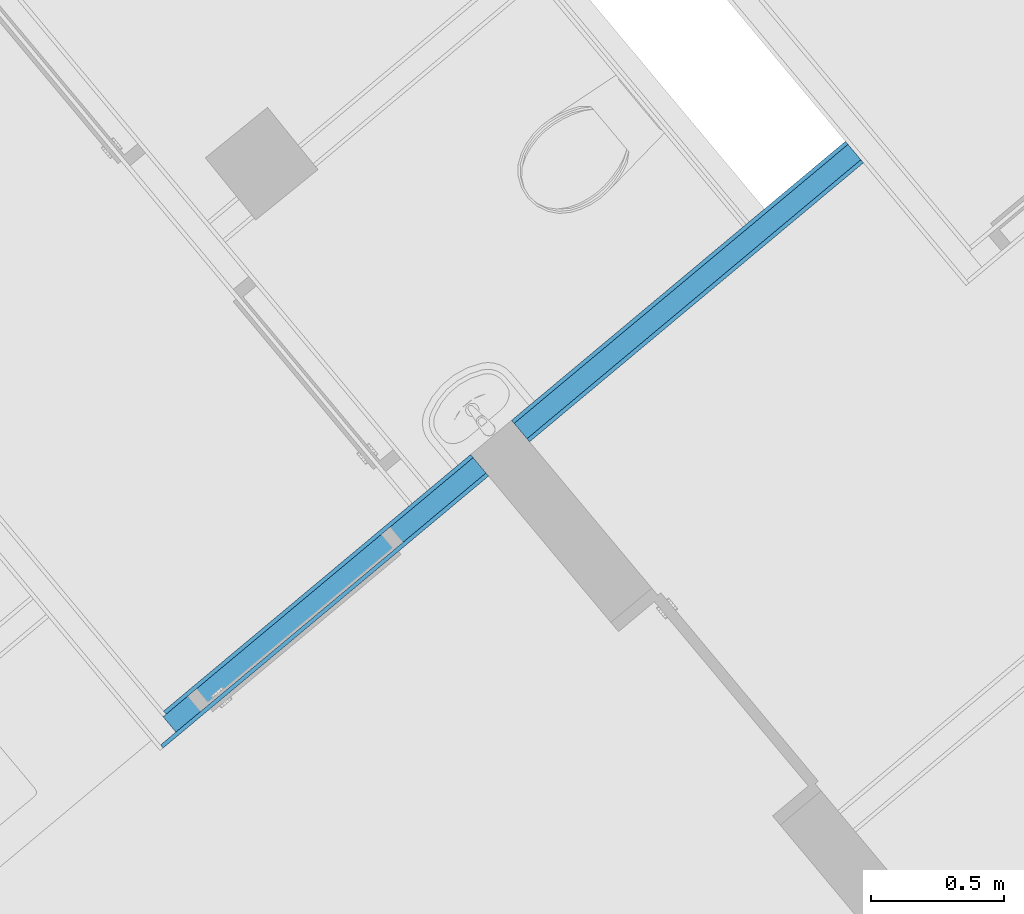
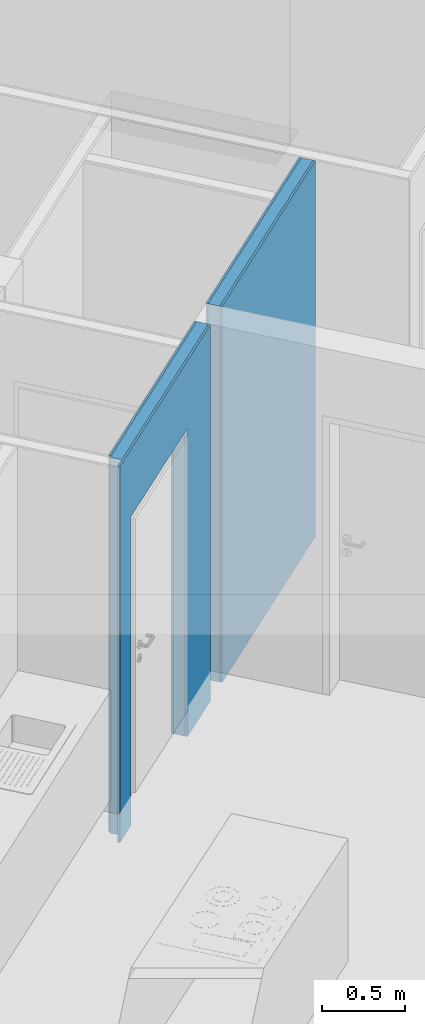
# One storey, part 12 of 75: 3 building element parts, 1 opening, 1 element without a shape of its own.
"""IFC4 building model written with IfcOpenShell, lengths in metres."""

from ifc_helpers import new_model, entity, si_unit, converted_unit, derived_unit, direction, frame, origin_with_axes, place, context, subcontext, project, spatial, polygons, material, type_object, element, aggregate, save


model = new_model("IFC4")

# Units and contexts
model_context = context("Model", 3, precision=1e-05, world=origin_with_axes(), true_north=direction((0.0, 1.0)))
body_context = subcontext(model_context, "Body", "Model", "MODEL_VIEW")
ifc_project = project(units=[si_unit("LENGTHUNIT", "METRE"), si_unit("AREAUNIT", "SQUARE_METRE"), si_unit("VOLUMEUNIT", "CUBIC_METRE"), converted_unit("PLANEANGLEUNIT", "DEGREE", entity("IfcPlaneAngleMeasure", 0.0174532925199), si_unit("PLANEANGLEUNIT", "RADIAN"), dimensions=[0, 0, 0, 0, 0, 0, 0]), converted_unit("TIMEUNIT", "Year", entity("IfcTimeMeasure", 31556926.0), si_unit("TIMEUNIT", "SECOND"), dimensions=[0, 0, 1, 0, 0, 0, 0]), si_unit("MASSUNIT", "GRAM", prefix="KILO"), si_unit("THERMODYNAMICTEMPERATUREUNIT", "DEGREE_CELSIUS"), si_unit("LUMINOUSINTENSITYUNIT", "LUMEN"), si_unit("ENERGYUNIT", "JOULE", prefix="MEGA"), derived_unit("THERMALCONDUCTANCEUNIT", [(si_unit("POWERUNIT", "WATT"), 1), (si_unit("LENGTHUNIT", "METRE"), -1), (si_unit("THERMODYNAMICTEMPERATUREUNIT", "KELVIN"), -1)]), derived_unit("SPECIFICHEATCAPACITYUNIT", [(si_unit("ENERGYUNIT", "JOULE"), 1), (si_unit("MASSUNIT", "GRAM", prefix="KILO"), -1), (si_unit("THERMODYNAMICTEMPERATUREUNIT", "KELVIN"), -1)]), derived_unit("MASSDENSITYUNIT", [(si_unit("MASSUNIT", "GRAM", prefix="KILO"), 1), (si_unit("VOLUMEUNIT", "CUBIC_METRE"), -1)])], contexts=[model_context])

# Site, building, storey
site_placement = place(None, frame((-0.00153261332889, -0.00661245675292, 0.0), z_axis=(0.0, 0.0, 1.0), x_axis=(1.0, 0.0, 0.0)))
site = spatial("IfcSite", under=ifc_project, at=site_placement, Name="Gelände", CompositionType="ELEMENT")
building_placement = place(site_placement, origin_with_axes())
building = spatial("IfcBuilding", under=site, at=building_placement, Name="Gebäude", CompositionType="ELEMENT")
storey_placement = place(building_placement, frame((0.0, 0.0, -0.22), z_axis=(0.0, 0.0, 1.0), x_axis=(1.0, 0.0, 0.0)))
storey = spatial("IfcBuildingStorey", under=building, at=storey_placement, Name="EG", CompositionType="ELEMENT", Elevation=-0.22)

# Wall, opening, building element parts
wall_type = type_object("IfcWallType", Name="IW LB 01 Leichtbautrennwand einfach 10,5 cm 105", PredefinedType="NOTDEFINED")
wall_placement = place(storey_placement, frame((-2.08312731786, 16.7658353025, 0.0), z_axis=(0.0, 0.0, 1.0), x_axis=(0.767365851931, 0.641209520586, 0.0)))
wall = element("IfcWall", 1, at=wall_placement, inside=storey, type_object=wall_type, Name="Wand-012", PredefinedType="NOTDEFINED")
opening_placement = place(wall_placement, frame((0.704535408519, 0.0, 0.22), z_axis=(0.0, 0.0, 1.0), x_axis=(1.0, 0.0, 0.0)))
element("IfcOpeningElement", 2, at=opening_placement, cuts=wall, Name="Tür-017", context=body_context, identifier="Reference", shape_type="Tessellation", body=[
    polygons([(0.495, 1.6911768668, 2.045), (0.495, 1.6911768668, -0.22), (-0.495, 1.6911768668, -0.22), (-0.495, 1.6911768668, 2.045), (0.495, -1.7961768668, 2.045), (0.495, -1.7961768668, -0.22), (-0.495, -1.7961768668, -0.22), (-0.495, -1.7961768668, 2.045)], [[[1, 2, 3, 4]], [[5, 6, 2, 1]], [[6, 7, 3, 2]], [[7, 8, 4, 3]], [[8, 5, 1, 4]], [[7, 6, 5, 8]]], closed=True),
])
ifc_material_1 = material(Name="Gipskarton")
building_element_part_1_placement = place(wall_placement, origin_with_axes())
building_element_part_1 = element("IfcBuildingElementPart", 3, at=building_element_part_1_placement, material=ifc_material_1, Name="Gipskarton", PredefinedType="NOTDEFINED", context=body_context, shape_type="Tessellation", body=[
    polygons([(0.209535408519, -0.015, 0.22), (0.209535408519, -0.015, 2.265), (1.19953540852, -0.015, 2.265), (1.19953540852, -0.015, 0.22), (1.19953540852, -0.015, 0.0), (1.60433833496, -0.015, 0.0), (1.60433833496, -0.015, 2.76), (0.105, -0.015, 2.76), (0.105, -0.015, 0.0), (0.209535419, -0.015, 0.0), (0.209535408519, 1.49510857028e-08, 0.22), (0.209535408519, 5.30051380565e-09, 2.265), (1.19953540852, 5.30051380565e-09, 2.265), (1.19953540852, 5.30051380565e-09, 0.22), (1.19953540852, 5.30051380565e-09, 0.0), (1.60433833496, 0.0, 0.0), (1.60433833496, 0.0, 2.76), (0.105, 0.0, 2.76), (0.105, 0.0, 0.0), (0.209535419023, 1.49510857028e-08, 0.0)], [[[1, 2, 3, 4, 5, 6, 7, 8, 9, 10]], [[2, 1, 11, 12]], [[3, 2, 12, 13]], [[4, 3, 13, 14]], [[4, 14, 15, 5]], [[15, 16, 6, 5]], [[7, 6, 16, 17]], [[7, 17, 18, 8]], [[18, 19, 9, 8]], [[10, 9, 19, 20]], [[11, 1, 10, 20]], [[12, 11, 20, 19, 18, 17, 16, 15, 14, 13]]], closed=True),
    polygons([(3.43502357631, 0.0, 2.76), (3.43502357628, -0.015, 2.76), (3.43502357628, -0.015, 0.0), (3.43502357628, 0.0, 0.0), (3.03975605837, 0.0, 2.76), (1.80433833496, 0.0, 2.76), (1.80433833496, -0.015, 2.76), (1.80433833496, -0.015, 0.0), (1.80433833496, 0.0, 0.0)], [[[1, 2, 3, 4]], [[2, 1, 5, 6, 7]], [[2, 7, 8, 3]], [[3, 8, 9, 4]], [[5, 1, 4, 9, 6]], [[7, 6, 9, 8]]], closed=True),
])
ifc_material_2 = material(Name="Mineralwolle weich")
building_element_part_2_placement = place(wall_placement, origin_with_axes())
building_element_part_2 = element("IfcBuildingElementPart", 4, at=building_element_part_2_placement, material=ifc_material_2, Name="Mineralwolle weich", PredefinedType="NOTDEFINED", context=body_context, shape_type="Tessellation", body=[
    polygons([(0.209535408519, -0.09, 0.22), (0.209535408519, -0.09, 2.265), (1.19953540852, -0.09, 2.265), (1.19953540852, -0.09, 0.22), (1.19953540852, -0.09, 0.0), (1.60433833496, -0.09, 0.0), (1.60433833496, -0.09, 2.76), (0.089999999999, -0.09, 2.76), (0.089999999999, -0.09, 0.0), (0.209535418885, -0.09, 0.0), (0.209535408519, -0.015, 0.22), (0.209535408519, -0.015, 2.265), (1.19953540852, -0.015, 2.265), (1.19953540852, -0.015, 0.22), (1.19953540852, -0.015, 0.0), (1.60433833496, -0.015, 0.0), (1.60433833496, -0.015, 2.76), (0.0899999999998, -0.015, 2.76), (0.0899999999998, -0.015, 0.0), (0.209535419, -0.015, 0.0)], [[[1, 2, 3, 4, 5, 6, 7, 8, 9, 10]], [[2, 1, 11, 12]], [[3, 2, 12, 13]], [[4, 3, 13, 14]], [[4, 14, 15, 5]], [[15, 16, 6, 5]], [[7, 6, 16, 17]], [[7, 17, 18, 8]], [[18, 19, 9, 8]], [[10, 9, 19, 20]], [[11, 1, 10, 20]], [[12, 11, 20, 19, 18, 17, 16, 15, 14, 13]]], closed=True),
    polygons([(3.43502357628, -0.015, 2.76), (3.43502357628, -0.09, 2.76), (3.43502357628, -0.09, 0.0), (3.43502357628, -0.015, 0.0), (1.80433833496, -0.015, 2.76), (1.80433833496, -0.09, 2.76), (1.80433833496, -0.09, 0.0), (1.80433833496, -0.015, 0.0)], [[[1, 2, 3, 4]], [[2, 1, 5, 6]], [[2, 6, 7, 3]], [[3, 7, 8, 4]], [[1, 4, 8, 5]], [[6, 5, 8, 7]]], closed=True),
])
building_element_part_3_placement = place(wall_placement, origin_with_axes())
building_element_part_3 = element("IfcBuildingElementPart", 5, at=building_element_part_3_placement, material=ifc_material_1, Name="Gipskarton", PredefinedType="NOTDEFINED", context=body_context, shape_type="Tessellation", body=[
    polygons([(0.209535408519, -0.105, 0.22), (0.209535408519, -0.105, 2.265), (1.19953540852, -0.105, 2.265), (1.19953540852, -0.105, 0.22), (1.19953540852, -0.105, 0.0), (1.60433833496, -0.105, 0.0), (1.60433833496, -0.105, 2.76), (0.0149999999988, -0.105, 2.76), (0.0149999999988, -0.105, 0.0), (0.209535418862, -0.105, 0.0), (0.209535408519, -0.09, 0.22), (0.209535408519, -0.09, 2.265), (1.19953540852, -0.09, 2.265), (1.19953540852, -0.09, 0.22), (1.19953540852, -0.09, 0.0), (1.60433833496, -0.09, 0.0), (1.60433833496, -0.09, 2.76), (0.014999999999, -0.09, 2.76), (0.014999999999, -0.09, 0.0), (0.209535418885, -0.09, 0.0)], [[[1, 2, 3, 4, 5, 6, 7, 8, 9, 10]], [[2, 1, 11, 12]], [[3, 2, 12, 13]], [[4, 3, 13, 14]], [[4, 14, 15, 5]], [[15, 16, 6, 5]], [[7, 6, 16, 17]], [[7, 17, 18, 8]], [[18, 19, 9, 8]], [[10, 9, 19, 20]], [[11, 1, 10, 20]], [[12, 11, 20, 19, 18, 17, 16, 15, 14, 13]]], closed=True),
    polygons([(3.43502357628, -0.09, 2.76), (3.43502357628, -0.105, 2.76), (3.43502357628, -0.105, 0.0), (3.43502357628, -0.09, 0.0), (1.80433833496, -0.09, 2.76), (1.80433833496, -0.105, 2.76), (1.80433833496, -0.105, 0.0), (1.80433833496, -0.09, 0.0)], [[[1, 2, 3, 4]], [[2, 1, 5, 6]], [[2, 6, 7, 3]], [[3, 7, 8, 4]], [[1, 4, 8, 5]], [[6, 5, 8, 7]]], closed=True),
])
aggregate(wall, [building_element_part_1, building_element_part_2, building_element_part_3])

save(model, "model.ifc")
